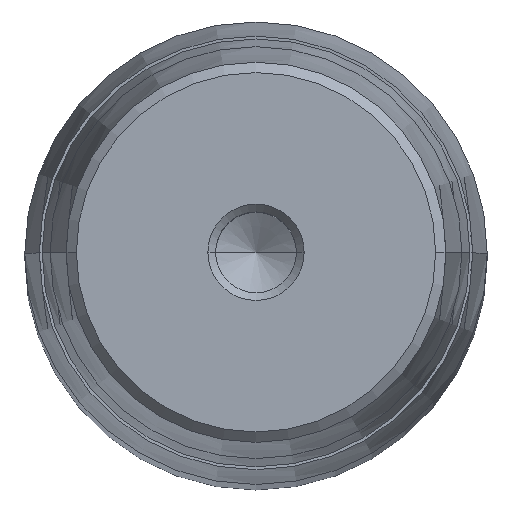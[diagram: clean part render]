
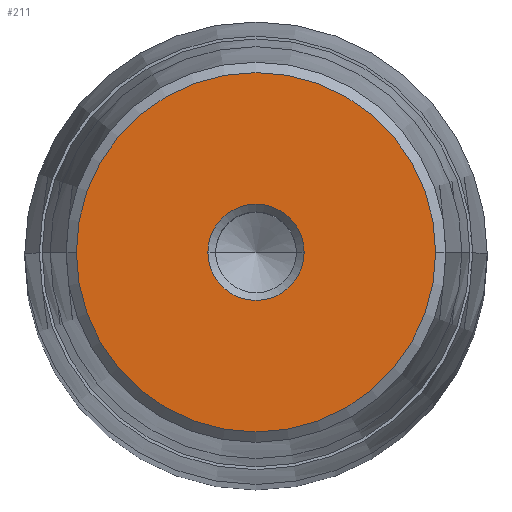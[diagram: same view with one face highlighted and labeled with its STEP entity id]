
A CAD part, top view. The second image highlights one B-rep face of the part: STEP entity #211.
In plain terms, the highlighted planar face has unit normal (0, 0, 1).
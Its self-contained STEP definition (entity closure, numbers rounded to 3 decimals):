
#136=CARTESIAN_POINT('Axis2P3D Location',(0.,0.,58.)) ;
#140=CARTESIAN_POINT('Vertex',(-5.,0.,58.)) ;
#142=CARTESIAN_POINT('Vertex',(5.,0.,58.)) ;
#179=CARTESIAN_POINT('Axis2P3D Location',(0.,5.,58.)) ;
#184=CARTESIAN_POINT('Axis2P3D Location',(0.,0.,58.)) ;
#188=CARTESIAN_POINT('Vertex',(-18.65,0.,58.)) ;
#190=CARTESIAN_POINT('Vertex',(18.65,0.,58.)) ;
#193=CARTESIAN_POINT('Axis2P3D Location',(0.,0.,58.)) ;
#202=CARTESIAN_POINT('Axis2P3D Location',(0.,0.,58.)) ;
#137=DIRECTION('Axis2P3D Direction',(0.,-0.,1.)) ;
#180=DIRECTION('Axis2P3D Direction',(0.,0.,-1.)) ;
#181=DIRECTION('Axis2P3D XDirection',(-1.,0.,0.)) ;
#185=DIRECTION('Axis2P3D Direction',(0.,0.,-1.)) ;
#194=DIRECTION('Axis2P3D Direction',(0.,0.,-1.)) ;
#203=DIRECTION('Axis2P3D Direction',(0.,0.,-1.)) ;
#138=AXIS2_PLACEMENT_3D('Circle Axis2P3D',#136,#137,$) ;
#182=AXIS2_PLACEMENT_3D('Plane Axis2P3D',#179,#180,#181) ;
#186=AXIS2_PLACEMENT_3D('Circle Axis2P3D',#184,#185,$) ;
#195=AXIS2_PLACEMENT_3D('Circle Axis2P3D',#193,#194,$) ;
#204=AXIS2_PLACEMENT_3D('Circle Axis2P3D',#202,#203,$) ;
#199=ORIENTED_EDGE('',*,*,#192,.F.) ;
#200=ORIENTED_EDGE('',*,*,#197,.F.) ;
#208=ORIENTED_EDGE('',*,*,#206,.T.) ;
#209=ORIENTED_EDGE('',*,*,#144,.T.) ;
#210=FACE_BOUND('',#207,.T.) ;
#211=ADVANCED_FACE('722-48x355x395',(#201,#210),#183,.F.) ;
#139=CIRCLE('generated circle',#138,5.) ;
#187=CIRCLE('generated circle',#186,18.65) ;
#196=CIRCLE('generated circle',#195,18.65) ;
#205=CIRCLE('generated circle',#204,5.) ;
#144=EDGE_CURVE('',#141,#143,#139,.F.) ;
#192=EDGE_CURVE('',#189,#191,#187,.T.) ;
#197=EDGE_CURVE('',#191,#189,#196,.T.) ;
#206=EDGE_CURVE('',#143,#141,#205,.T.) ;
#198=EDGE_LOOP('',(#199,#200)) ;
#207=EDGE_LOOP('',(#208,#209)) ;
#201=FACE_OUTER_BOUND('',#198,.T.) ;
#183=PLANE('Plane',#182) ;
#141=VERTEX_POINT('',#140) ;
#143=VERTEX_POINT('',#142) ;
#189=VERTEX_POINT('',#188) ;
#191=VERTEX_POINT('',#190) ;
